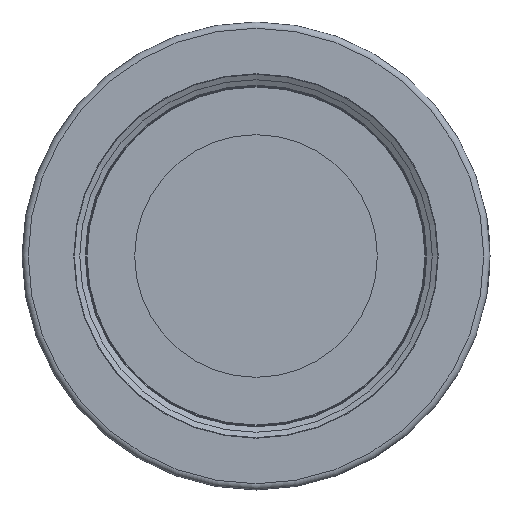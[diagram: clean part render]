
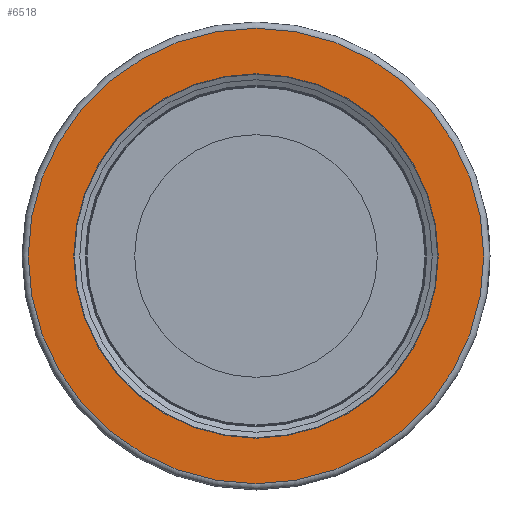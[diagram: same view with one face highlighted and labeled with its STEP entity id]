
A CAD part, left-side view. The second image highlights one B-rep face of the part: STEP entity #6518.
In plain terms, the highlighted planar face has unit normal (-1, 0, 0).
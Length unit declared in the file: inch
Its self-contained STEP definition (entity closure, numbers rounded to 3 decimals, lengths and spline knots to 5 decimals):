
#186=PLANE('',#6911);
#1936=ORIENTED_EDGE('',*,*,#2643,.F.);
#1937=ORIENTED_EDGE('',*,*,#2644,.T.);
#2643=EDGE_CURVE('',#3085,#3085,#3273,.T.);
#2644=EDGE_CURVE('',#3086,#3086,#3274,.T.);
#3085=VERTEX_POINT('',#11185);
#3086=VERTEX_POINT('',#11188);
#3273=CIRCLE('',#6910,2.19);
#3274=CIRCLE('',#6912,1.752);
#3592=EDGE_LOOP('',(#1936));
#3593=EDGE_LOOP('',(#1937));
#4004=FACE_BOUND('',#3592,.T.);
#4005=FACE_BOUND('',#3593,.T.);
#6518=ADVANCED_FACE('',(#4004,#4005),#186,.F.);
#6910=AXIS2_PLACEMENT_3D('',#11184,#7908,#7909);
#6911=AXIS2_PLACEMENT_3D('',#11186,#7910,#7911);
#6912=AXIS2_PLACEMENT_3D('',#11187,#7912,#7913);
#7908=DIRECTION('',(1.,0.,0.));
#7909=DIRECTION('',(0.,1.,0.));
#7910=DIRECTION('',(1.,0.,0.));
#7911=DIRECTION('',(0.,1.,0.));
#7912=DIRECTION('',(1.,0.,0.));
#7913=DIRECTION('',(0.,1.,0.));
#11184=CARTESIAN_POINT('',(0.,0.,0.));
#11185=CARTESIAN_POINT('',(0.,2.19,0.));
#11186=CARTESIAN_POINT('',(0.,0.,0.));
#11187=CARTESIAN_POINT('',(0.,0.,0.));
#11188=CARTESIAN_POINT('',(0.,1.752,0.));
